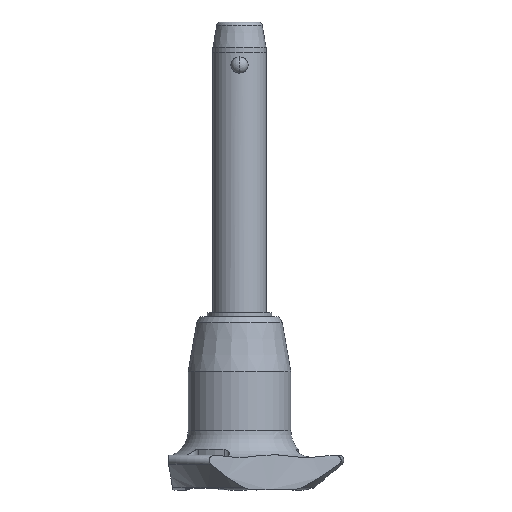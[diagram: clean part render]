
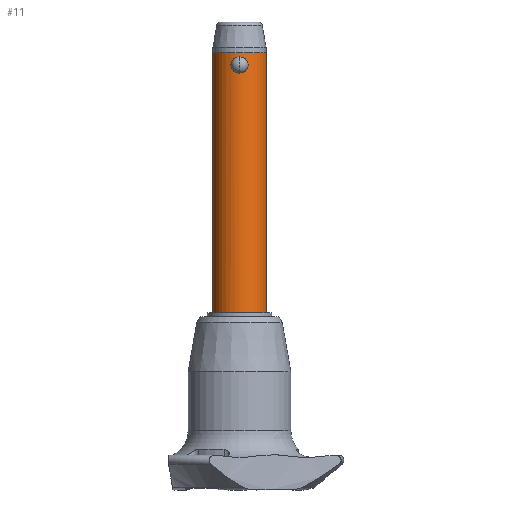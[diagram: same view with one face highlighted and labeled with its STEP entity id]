
A CAD part, front view. The second image highlights one B-rep face of the part: STEP entity #11.
In plain terms, the highlighted cylindrical face has radius 5 mm (diameter 10 mm), a partial arc.
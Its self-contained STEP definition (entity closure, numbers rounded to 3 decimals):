
#11 = ADVANCED_FACE ( 'NONE', ( #2610, #1945 ), #1716, .T. ) ;
#19 = CARTESIAN_POINT ( 'NONE',  ( -0.412, -4.987, 0.037 ) ) ;
#46 = ORIENTED_EDGE ( 'NONE', *, *, #1021, .T. ) ;
#72 = CARTESIAN_POINT ( 'NONE',  ( -1.604, -4.736, 1.724 ) ) ;
#86 = CARTESIAN_POINT ( 'NONE',  ( -0.792, -4.938, 0.19 ) ) ;
#160 = CARTESIAN_POINT ( 'NONE',  ( 1.594, -4.739, 1.721 ) ) ;
#272 = CARTESIAN_POINT ( 'NONE',  ( -1.264, -4.838, 2.464 ) ) ;
#273 = EDGE_CURVE ( 'NONE', #769, #1322, #1664, .T. ) ;
#279 = ORIENTED_EDGE ( 'NONE', *, *, #1360, .F. ) ;
#303 = CARTESIAN_POINT ( 'NONE',  ( -0.966, -4.907, 0.296 ) ) ;
#363 = CARTESIAN_POINT ( 'NONE',  ( 1.604, -4.736, 1.619 ) ) ;
#381 = CARTESIAN_POINT ( 'NONE',  ( 0.205, -5., 0. ) ) ;
#408 = CARTESIAN_POINT ( 'NONE',  ( 0.412, -4.987, 0.037 ) ) ;
#428 = VERTEX_POINT ( 'NONE', #1733 ) ;
#452 = DIRECTION ( 'NONE',  ( 0., 0., 1. ) ) ;
#517 = EDGE_LOOP ( 'NONE', ( #1964, #2294 ) ) ;
#593 = CARTESIAN_POINT ( 'NONE',  ( 0.966, -4.907, 0.296 ) ) ;
#597 = VERTEX_POINT ( 'NONE', #2205 ) ;
#602 = VECTOR ( 'NONE', #990, 1000. ) ;
#625 = CARTESIAN_POINT ( 'NONE',  ( 1.519, -4.764, 2.021 ) ) ;
#689 = CARTESIAN_POINT ( 'NONE',  ( -0.7, -4.952, 2.888 ) ) ;
#752 = CARTESIAN_POINT ( 'NONE',  ( -1.047, -4.89, 2.676 ) ) ;
#769 = VERTEX_POINT ( 'NONE', #2498 ) ;
#790 = EDGE_CURVE ( 'NONE', #428, #597, #1207, .T. ) ;
#795 = CARTESIAN_POINT ( 'NONE',  ( -5., 0., -45. ) ) ;
#819 = CARTESIAN_POINT ( 'NONE',  ( 0.412, -4.987, 2.996 ) ) ;
#869 = CARTESIAN_POINT ( 'NONE',  ( 0., 0., 3.84 ) ) ;
#919 = CARTESIAN_POINT ( 'NONE',  ( -0.699, -4.952, 0.145 ) ) ;
#920 = DIRECTION ( 'NONE',  ( 1., 0., 0. ) ) ;
#936 = CARTESIAN_POINT ( 'NONE',  ( -0.791, -4.938, 2.844 ) ) ;
#949 = CARTESIAN_POINT ( 'NONE',  ( -1.197, -4.855, 2.539 ) ) ;
#990 = DIRECTION ( 'NONE',  ( 0., 0., 1. ) ) ;
#1004 = CARTESIAN_POINT ( 'NONE',  ( 1.551, -4.753, 1.922 ) ) ;
#1014 = CARTESIAN_POINT ( 'NONE',  ( 0.966, -4.907, 2.738 ) ) ;
#1021 = EDGE_CURVE ( 'NONE', #2033, #1754, #2248, .T. ) ;
#1031 = CARTESIAN_POINT ( 'NONE',  ( 0.699, -4.952, 0.144 ) ) ;
#1051 = ORIENTED_EDGE ( 'NONE', *, *, #790, .F. ) ;
#1120 = CARTESIAN_POINT ( 'NONE',  ( -1.594, -4.739, 1.312 ) ) ;
#1140 = CARTESIAN_POINT ( 'NONE',  ( 0., -5., 0. ) ) ;
#1152 = EDGE_CURVE ( 'NONE', #1322, #769, #1739, .T. ) ;
#1153 = CARTESIAN_POINT ( 'NONE',  ( -1.604, -4.736, 1.416 ) ) ;
#1187 = CARTESIAN_POINT ( 'NONE',  ( -0.208, -5., 3.033 ) ) ;
#1207 = LINE ( 'NONE', #795, #602 ) ;
#1216 = AXIS2_PLACEMENT_3D ( 'NONE', #1392, #1451, #2271 ) ;
#1275 = CARTESIAN_POINT ( 'NONE',  ( 1.196, -4.855, 0.493 ) ) ;
#1283 = DIRECTION ( 'NONE',  ( 1., 0., 0. ) ) ;
#1322 = VERTEX_POINT ( 'NONE', #1558 ) ;
#1351 = CARTESIAN_POINT ( 'NONE',  ( -1.383, -4.805, 2.299 ) ) ;
#1360 = EDGE_CURVE ( 'NONE', #2033, #428, #2085, .T. ) ;
#1392 = CARTESIAN_POINT ( 'NONE',  ( 0., 0., -45. ) ) ;
#1395 = CARTESIAN_POINT ( 'NONE',  ( -1.394, -4.802, 0.731 ) ) ;
#1401 = CIRCLE ( 'NONE', #2170, 5. ) ;
#1446 = CARTESIAN_POINT ( 'NONE',  ( 1.395, -4.802, 2.301 ) ) ;
#1451 = DIRECTION ( 'NONE',  ( 0., 0., -1. ) ) ;
#1558 = CARTESIAN_POINT ( 'NONE',  ( 0., -5., 0. ) ) ;
#1561 = CARTESIAN_POINT ( 'NONE',  ( -1.435, -4.79, 2.209 ) ) ;
#1599 = EDGE_LOOP ( 'NONE', ( #1051, #279, #46, #1866 ) ) ;
#1600 = CARTESIAN_POINT ( 'NONE',  ( -0.965, -4.907, 2.738 ) ) ;
#1664 = B_SPLINE_CURVE_WITH_KNOTS ( 'NONE', 3,
 ( #1798, #1187, #2711, #689, #936, #1600, #752, #949, #272, #1351, #1561, #2473, #72, #1153, #1120, #2046, #2062, #1395, #2275, #2231, #303, #86, #919, #19, #2442, #1140 ),
 .UNSPECIFIED., .F., .F.,
 ( 4, 2, 2, 2, 2, 2, 2, 2, 2, 2, 2, 2, 4 ),
 ( 0., 0.001, 0.001, 0.001, 0.002, 0.002, 0.002, 0.003, 0.003, 0.004, 0.004, 0.004, 0.005 ),
 .UNSPECIFIED. ) ;
#1689 = CARTESIAN_POINT ( 'NONE',  ( 1.604, -4.736, 1.308 ) ) ;
#1698 = AXIS2_PLACEMENT_3D ( 'NONE', #2790, #2375, #1283 ) ;
#1701 = CARTESIAN_POINT ( 'NONE',  ( 0.208, -5., 3.033 ) ) ;
#1716 = CYLINDRICAL_SURFACE ( 'NONE', #1698, 5. ) ;
#1733 = CARTESIAN_POINT ( 'NONE',  ( -5., 0., -45. ) ) ;
#1739 = B_SPLINE_CURVE_WITH_KNOTS ( 'NONE', 3,
 ( #1898, #381, #408, #1031, #2379, #593, #2137, #1275, #2338, #2162, #1933, #2795, #1689, #363, #160, #1004, #625, #1446, #1921, #2782, #1014, #2587, #1886, #819, #1701, #2757 ),
 .UNSPECIFIED., .F., .F.,
 ( 4, 2, 2, 2, 2, 2, 2, 2, 2, 2, 2, 2, 4 ),
 ( 0.005, 0.006, 0.006, 0.006, 0.006, 0.007, 0.007, 0.008, 0.008, 0.009, 0.009, 0.009, 0.01 ),
 .UNSPECIFIED. ) ;
#1752 = DIRECTION ( 'NONE',  ( 0., 0., 1. ) ) ;
#1754 = VERTEX_POINT ( 'NONE', #2512 ) ;
#1798 = CARTESIAN_POINT ( 'NONE',  ( 0., -5., 3.033 ) ) ;
#1866 = ORIENTED_EDGE ( 'NONE', *, *, #1872, .F. ) ;
#1872 = EDGE_CURVE ( 'NONE', #597, #1754, #1401, .T. ) ;
#1886 = CARTESIAN_POINT ( 'NONE',  ( 0.7, -4.952, 2.888 ) ) ;
#1898 = CARTESIAN_POINT ( 'NONE',  ( 0., -5., 0. ) ) ;
#1921 = CARTESIAN_POINT ( 'NONE',  ( 1.272, -4.838, 2.47 ) ) ;
#1933 = CARTESIAN_POINT ( 'NONE',  ( 1.434, -4.79, 0.822 ) ) ;
#1945 = FACE_BOUND ( 'NONE', #517, .T. ) ;
#1964 = ORIENTED_EDGE ( 'NONE', *, *, #273, .F. ) ;
#2033 = VERTEX_POINT ( 'NONE', #2699 ) ;
#2046 = CARTESIAN_POINT ( 'NONE',  ( -1.551, -4.753, 1.11 ) ) ;
#2062 = CARTESIAN_POINT ( 'NONE',  ( -1.519, -4.764, 1.013 ) ) ;
#2085 = CIRCLE ( 'NONE', #1216, 5. ) ;
#2137 = CARTESIAN_POINT ( 'NONE',  ( 1.047, -4.89, 0.356 ) ) ;
#2162 = CARTESIAN_POINT ( 'NONE',  ( 1.384, -4.805, 0.735 ) ) ;
#2170 = AXIS2_PLACEMENT_3D ( 'NONE', #869, #1752, #920 ) ;
#2205 = CARTESIAN_POINT ( 'NONE',  ( -5., 0., 3.84 ) ) ;
#2222 = CARTESIAN_POINT ( 'NONE',  ( 5., 0., -45. ) ) ;
#2231 = CARTESIAN_POINT ( 'NONE',  ( -1.047, -4.89, 0.357 ) ) ;
#2248 = LINE ( 'NONE', #2222, #2534 ) ;
#2271 = DIRECTION ( 'NONE',  ( 1., 0., 0. ) ) ;
#2275 = CARTESIAN_POINT ( 'NONE',  ( -1.272, -4.838, 0.564 ) ) ;
#2294 = ORIENTED_EDGE ( 'NONE', *, *, #1152, .F. ) ;
#2338 = CARTESIAN_POINT ( 'NONE',  ( 1.265, -4.838, 0.57 ) ) ;
#2375 = DIRECTION ( 'NONE',  ( 0., 0., 1. ) ) ;
#2379 = CARTESIAN_POINT ( 'NONE',  ( 0.792, -4.938, 0.19 ) ) ;
#2442 = CARTESIAN_POINT ( 'NONE',  ( -0.205, -5., 0. ) ) ;
#2473 = CARTESIAN_POINT ( 'NONE',  ( -1.56, -4.751, 1.931 ) ) ;
#2498 = CARTESIAN_POINT ( 'NONE',  ( 0., -5., 3.033 ) ) ;
#2512 = CARTESIAN_POINT ( 'NONE',  ( 5., 0., 3.84 ) ) ;
#2534 = VECTOR ( 'NONE', #452, 1000. ) ;
#2587 = CARTESIAN_POINT ( 'NONE',  ( 0.792, -4.938, 2.844 ) ) ;
#2610 = FACE_OUTER_BOUND ( 'NONE', #1599, .T. ) ;
#2699 = CARTESIAN_POINT ( 'NONE',  ( 5., 0., -45. ) ) ;
#2711 = CARTESIAN_POINT ( 'NONE',  ( -0.412, -4.987, 2.997 ) ) ;
#2757 = CARTESIAN_POINT ( 'NONE',  ( 0., -5., 3.033 ) ) ;
#2782 = CARTESIAN_POINT ( 'NONE',  ( 1.048, -4.889, 2.676 ) ) ;
#2790 = CARTESIAN_POINT ( 'NONE',  ( 0., 0., -45. ) ) ;
#2795 = CARTESIAN_POINT ( 'NONE',  ( 1.56, -4.751, 1.103 ) ) ;
